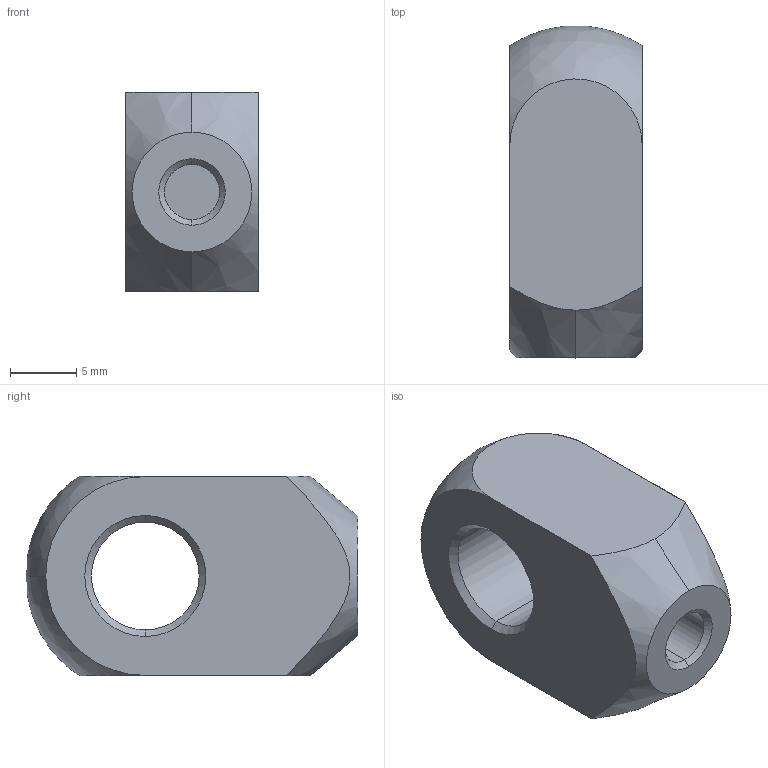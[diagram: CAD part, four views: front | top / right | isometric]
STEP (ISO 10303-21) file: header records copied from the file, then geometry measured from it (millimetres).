
FILE_DESCRIPTION (( 'STEP AP214' ), '1' );
FILE_NAME ('18.05A1VLAK.STEP', '2017-10-21T10:21:41', ( '' ), ( '' ), 'SwSTEP 2.0', 'SolidWorks 2016', '' );
FILE_SCHEMA (( 'AUTOMOTIVE_DESIGN' ));
Length unit declared in the file: millimetre
Products named in the file (1): 18.05A1VLAK
Bounding box: 10 x 24.97 x 15 mm (x, y, z)
Volume: 2676.2 mm3; surface area: 1531.7 mm2
Topology: 1 solids, 1 shells, 24 faces, 57 edges, 36 vertices
Faces by surface type: cone 8, cylinder 8, plane 6, bspline 2
Entity records: 910 total; most frequent: CARTESIAN_POINT 312, DIRECTION 124, ORIENTED_EDGE 114, EDGE_CURVE 57, AXIS2_PLACEMENT_3D 52, VERTEX_POINT 36, CIRCLE 29, EDGE_LOOP 27
